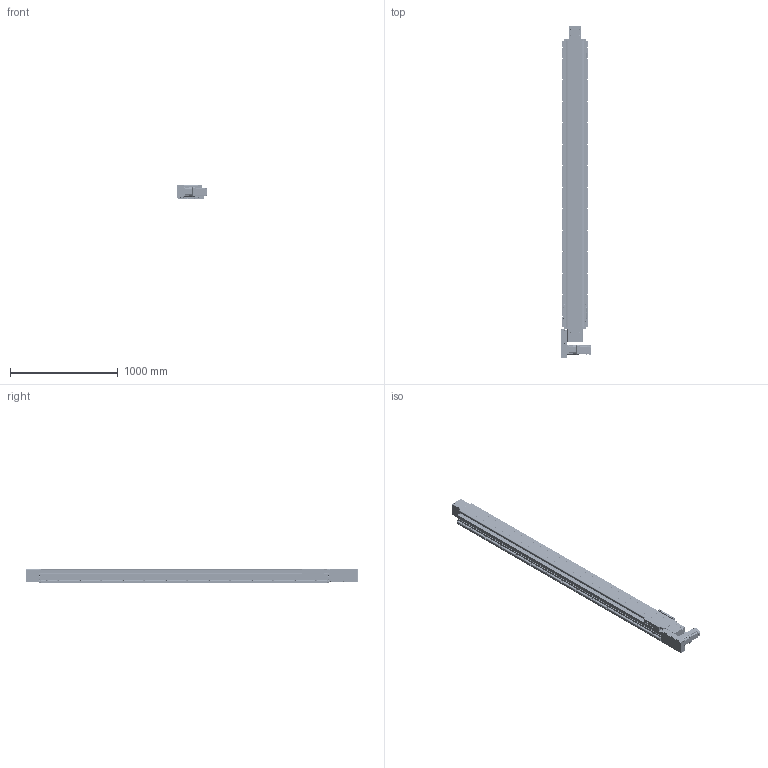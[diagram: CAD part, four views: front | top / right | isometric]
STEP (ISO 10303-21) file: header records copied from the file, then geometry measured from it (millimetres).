
FILE_DESCRIPTION(/* description */ (''),/* implementation_level */ '2;1');
FILE_NAME(/* name */ '\\192.168.0.160\disk1\HAN SHIN Master\B-설계부문\C-표준\B-2024년\BC02-표준도면\+로봇 개선표준도면\홈페이지 표준 도면\홈페이지 최종 작업 폴더\3D\HSB\HSB210\HSB210-L7G-N-2400-R.stp',/* time_stamp */ '2025-01-04T11:03:50+09:00',/* author */ ('user'),/* organization */ (''),/* preprocessor_version */ 'ST-DEVELOPER v18.1',/* originating_system */ 'Autodesk Inventor 2022',/* authorisation */ '');
FILE_SCHEMA (('AUTOMOTIVE_DESIGN { 1 0 10303 214 3 1 1 }'));
Products named in the file (37): HSB210-L7G-N-0500-R; HSB210 BASE - 2000ST; HSB210 FORNT HOUSUNG-Connecting Shaft; HSB160 SHAFT-1; HSB160 BEARING OVER; HSB210 FRONT COVER; REAR HOUSUNG-1-R1; HSB160 ARC COVER; HSB160 REAR SHAFT-2; REAR SHAFT--2; 6004ZZ; 6004ZZ Outer ring; 6004ZZ Shield1; 6004ZZ Inner ring; 6004ZZ Ball; 6004ZZ Shield2; UPCOVER; SIDE COVER; PGX90-H-1_3; HR200 SENSOR DOG; hsr_ftht_A-M6F_grease_nipple_joint; NIPPLE CAP(신규); SENSOR BRK(EE-SX674A); EE_SX674A; 6308ZZ; TENSION PLATE; HSB210 END COVER-1; HG90STOPPER - 27L; HSB210 TABLE (TEST); hg-kr73_; HSB210 L MOTOR PLATE ASSY; HG200 750W LR MOTOR PLATE-사출; 750W MOTOR PLATE; HR180,200-ACRYL COVER 2; HR180,200-ACRYL COVER; HG200-R L-BELT COVER; HR180,200-ACRYL COVER 3
Assembly tree (70 placements, depth 3):
  HSB210-L7G-N-0500-R
    HSB210 BASE - 2000ST
    HSB210 FRONT COVER  x2
    HSB210 FORNT HOUSUNG-Connecting Shaft
    HSB160 SHAFT-1
    HSB160 BEARING OVER
    HSB160 ARC COVER  x4
    REAR HOUSUNG-1-R1
    HSB160 REAR SHAFT-2
    REAR SHAFT--2
    6004ZZ  x2
      6004ZZ Outer ring
      6004ZZ Shield1
      6004ZZ Inner ring
      6004ZZ Ball
      6004ZZ Shield2
    TENSION PLATE  x2
    UPCOVER
    SIDE COVER  x2
    PGX90-H-1_3
    HG90STOPPER - 27L  x4
    HR200 SENSOR DOG
    SENSOR BRK(EE-SX674A)  x3
    EE_SX674A  x3
    NIPPLE CAP(신규)  x4
    hsr_ftht_A-M6F_grease_nipple_joint  x4
    6308ZZ  x2
    HSB210 END COVER-1
    HSB210 TABLE (TEST)
    hg-kr73_
    HSB210 L MOTOR PLATE ASSY
      HG200 750W LR MOTOR PLATE-사출
      750W MOTOR PLATE
      HR180,200-ACRYL COVER 2
      HR180,200-ACRYL COVER 3  x2
      HR180,200-ACRYL COVER
      HG200-R L-BELT COVER
Bounding box: 284.5 x 3085.5 x 131.5 mm (x, y, z)
Volume: 26241025.4 mm3; surface area: 5691523.2 mm2
Topology: 131 solids, 133 shells, 8193 faces, 22871 edges, 15095 vertices
Faces by surface type: plane 6164, cylinder 1455, cone 406, sphere 84, torus 59, bspline 25
Full cylindrical faces by diameter (mm): 2.013 x2, 2.459 x48, 3 x8, 3.2 x4, 3.242 x58, 3.4 x20, 3.5 x6, 4.134 x2, 4.2 x16, 4.5 x36, 4.917 x36, 5 x56, 5.1 x1, 5.5 x13, 5.6 x4, 5.9 x4, 6 x15, 6.5 x9, 6.6 x8, 6.647 x58, 6.8 x9, 7 x20, 7.6 x4, 8 x13, 8.433 x2, 9 x46, 9.5 x7, 10 x5, 10.106 x28, 11 x20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
Entity records: 181914 total; most frequent: CARTESIAN_POINT 35242, ORIENTED_EDGE 30392, DIRECTION 29254, EDGE_CURVE 15196, LINE 11646, VECTOR 11646, VERTEX_POINT 10126, AXIS2_PLACEMENT_3D 8804
